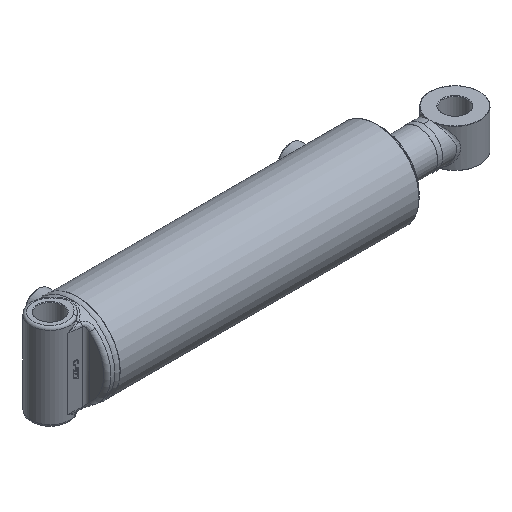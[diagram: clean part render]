
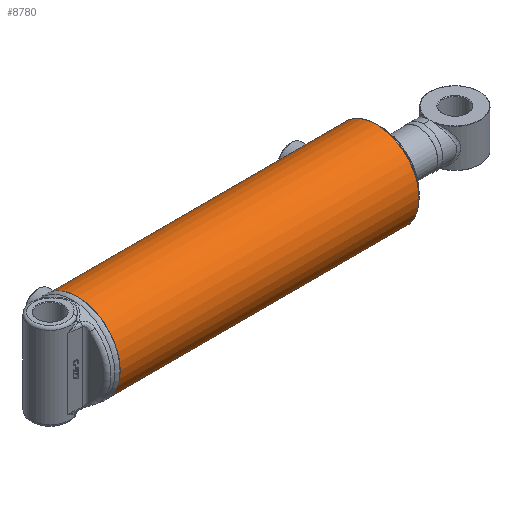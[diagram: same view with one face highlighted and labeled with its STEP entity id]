
A CAD part, isometric view. The second image highlights one B-rep face of the part: STEP entity #8780.
In plain terms, the highlighted cylindrical face has radius 56.356 mm (diameter 112.712 mm), a full revolution.
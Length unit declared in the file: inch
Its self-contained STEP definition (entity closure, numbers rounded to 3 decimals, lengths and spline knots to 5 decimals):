
#808=B_SPLINE_CURVE_WITH_KNOTS('',3,(#13133,#13134,#13135,#13136,#13137,
#13138,#13139,#13140,#13141,#13142),.UNSPECIFIED.,.F.,.F.,(4,2,2,2,4),(0.,
0.23942,0.47883,0.71824,0.95766),
 .UNSPECIFIED.);
#809=B_SPLINE_CURVE_WITH_KNOTS('',3,(#13143,#13144,#13145,#13146,#13147,
#13148,#13149,#13150,#13151,#13152,#13153,#13154,#13155,#13156,#13157,#13158,
#13159,#13160,#13161,#13162,#13163,#13164,#13165,#13166,#13167,#13168),
 .UNSPECIFIED.,.F.,.F.,(4,2,2,2,2,2,2,2,2,2,2,2,4),(0.95766,1.19707,
1.43649,1.6759,1.91532,2.15473,2.39415,
2.63356,2.87297,3.11239,3.3518,3.59122,
3.83063),.UNSPECIFIED.);
#810=B_SPLINE_CURVE_WITH_KNOTS('',3,(#13173,#13174,#13175,#13176,#13177,
#13178,#13179,#13180,#13181,#13182),.UNSPECIFIED.,.F.,.F.,(4,2,2,2,4),(0.,
0.23942,0.47883,0.71824,0.95766),
 .UNSPECIFIED.);
#811=B_SPLINE_CURVE_WITH_KNOTS('',3,(#13183,#13184,#13185,#13186,#13187,
#13188,#13189,#13190,#13191,#13192,#13193,#13194,#13195,#13196,#13197,#13198,
#13199,#13200,#13201,#13202,#13203,#13204,#13205,#13206,#13207,#13208),
 .UNSPECIFIED.,.F.,.F.,(4,2,2,2,2,2,2,2,2,2,2,2,4),(0.95766,1.19707,
1.43649,1.6759,1.91532,2.15473,2.39415,
2.63356,2.87297,3.11239,3.3518,3.59122,
3.83063),.UNSPECIFIED.);
#1096=FACE_BOUND('',#2595,.T.);
#1097=FACE_BOUND('',#2596,.T.);
#1352=LINE('',#13244,#1693);
#1693=VECTOR('',#10661,2.21875);
#2031=CYLINDRICAL_SURFACE('',#9525,2.21875);
#2119=FACE_OUTER_BOUND('',#2594,.T.);
#2594=EDGE_LOOP('',(#6139,#6140,#6141,#6142,#6143,#6144));
#2595=EDGE_LOOP('',(#6145,#6146));
#2596=EDGE_LOOP('',(#6147,#6148));
#3157=CIRCLE('',#9522,2.21875);
#3159=CIRCLE('',#9524,2.21875);
#3160=CIRCLE('',#9526,2.21875);
#3161=CIRCLE('',#9527,2.21875);
#3801=VERTEX_POINT('',#13130);
#3802=VERTEX_POINT('',#13132);
#3803=VERTEX_POINT('',#13170);
#3804=VERTEX_POINT('',#13172);
#3815=VERTEX_POINT('',#13237);
#3816=VERTEX_POINT('',#13238);
#3817=VERTEX_POINT('',#13243);
#3818=VERTEX_POINT('',#13245);
#4736=EDGE_CURVE('',#3802,#3801,#808,.T.);
#4737=EDGE_CURVE('',#3801,#3802,#809,.T.);
#4739=EDGE_CURVE('',#3804,#3803,#810,.T.);
#4740=EDGE_CURVE('',#3803,#3804,#811,.T.);
#4754=EDGE_CURVE('',#3815,#3816,#3157,.T.);
#4756=EDGE_CURVE('',#3816,#3815,#3159,.T.);
#4757=EDGE_CURVE('',#3815,#3817,#1352,.T.);
#4758=EDGE_CURVE('',#3818,#3817,#3160,.T.);
#4759=EDGE_CURVE('',#3817,#3818,#3161,.T.);
#6139=ORIENTED_EDGE('',*,*,#4754,.F.);
#6140=ORIENTED_EDGE('',*,*,#4757,.T.);
#6141=ORIENTED_EDGE('',*,*,#4758,.F.);
#6142=ORIENTED_EDGE('',*,*,#4759,.F.);
#6143=ORIENTED_EDGE('',*,*,#4757,.F.);
#6144=ORIENTED_EDGE('',*,*,#4756,.F.);
#6145=ORIENTED_EDGE('',*,*,#4736,.T.);
#6146=ORIENTED_EDGE('',*,*,#4737,.T.);
#6147=ORIENTED_EDGE('',*,*,#4739,.T.);
#6148=ORIENTED_EDGE('',*,*,#4740,.T.);
#8780=ADVANCED_FACE('',(#2119,#1096,#1097),#2031,.T.);
#9522=AXIS2_PLACEMENT_3D('',#13239,#10653,#10654);
#9524=AXIS2_PLACEMENT_3D('',#13241,#10657,#10658);
#9525=AXIS2_PLACEMENT_3D('',#13242,#10659,#10660);
#9526=AXIS2_PLACEMENT_3D('',#13246,#10662,#10663);
#9527=AXIS2_PLACEMENT_3D('',#13247,#10664,#10665);
#10653=DIRECTION('center_axis',(1.,0.,0.));
#10654=DIRECTION('ref_axis',(0.,-1.,0.));
#10657=DIRECTION('center_axis',(1.,0.,0.));
#10658=DIRECTION('ref_axis',(0.,-1.,0.));
#10659=DIRECTION('center_axis',(1.,0.,0.));
#10660=DIRECTION('ref_axis',(0.,-1.,0.));
#10661=DIRECTION('',(-1.,0.,0.));
#10662=DIRECTION('center_axis',(-1.,0.,0.));
#10663=DIRECTION('ref_axis',(0.,-1.,0.));
#10664=DIRECTION('center_axis',(-1.,0.,0.));
#10665=DIRECTION('ref_axis',(0.,-1.,0.));
#13130=CARTESIAN_POINT('',(0.75,0.,2.21875));
#13132=CARTESIAN_POINT('',(1.,-0.25,2.20462));
#13133=CARTESIAN_POINT('Ctrl Pts',(1.,-0.25,2.20462));
#13134=CARTESIAN_POINT('Ctrl Pts',(0.96858,-0.25,2.20462));
#13135=CARTESIAN_POINT('Ctrl Pts',(0.93509,-0.24372,
2.20536));
#13136=CARTESIAN_POINT('Ctrl Pts',(0.8735,-0.21819,
2.20803));
#13137=CARTESIAN_POINT('Ctrl Pts',(0.8454,-0.19896,
2.20992));
#13138=CARTESIAN_POINT('Ctrl Pts',(0.80104,-0.1546,
2.21347));
#13139=CARTESIAN_POINT('Ctrl Pts',(0.78181,-0.1265,
2.21536));
#13140=CARTESIAN_POINT('Ctrl Pts',(0.75628,-0.06491,
2.21801));
#13141=CARTESIAN_POINT('Ctrl Pts',(0.75,-0.03142,2.21875));
#13142=CARTESIAN_POINT('Ctrl Pts',(0.75,0.,2.21875));
#13143=CARTESIAN_POINT('Ctrl Pts',(0.75,0.,2.21875));
#13144=CARTESIAN_POINT('Ctrl Pts',(0.75,0.03142,2.21875));
#13145=CARTESIAN_POINT('Ctrl Pts',(0.75628,0.06491,
2.21801));
#13146=CARTESIAN_POINT('Ctrl Pts',(0.78181,0.1265,
2.21536));
#13147=CARTESIAN_POINT('Ctrl Pts',(0.80104,0.1546,
2.21347));
#13148=CARTESIAN_POINT('Ctrl Pts',(0.8454,0.19896,
2.20992));
#13149=CARTESIAN_POINT('Ctrl Pts',(0.8735,0.21819,2.20803));
#13150=CARTESIAN_POINT('Ctrl Pts',(0.93509,0.24372,
2.20536));
#13151=CARTESIAN_POINT('Ctrl Pts',(0.96858,0.25,2.20462));
#13152=CARTESIAN_POINT('Ctrl Pts',(1.03142,0.25,2.20462));
#13153=CARTESIAN_POINT('Ctrl Pts',(1.06491,0.24372,2.20536));
#13154=CARTESIAN_POINT('Ctrl Pts',(1.1265,0.21819,2.20803));
#13155=CARTESIAN_POINT('Ctrl Pts',(1.1546,0.19896,2.20992));
#13156=CARTESIAN_POINT('Ctrl Pts',(1.19896,0.1546,2.21347));
#13157=CARTESIAN_POINT('Ctrl Pts',(1.21819,0.1265,2.21536));
#13158=CARTESIAN_POINT('Ctrl Pts',(1.24372,0.06491,
2.21801));
#13159=CARTESIAN_POINT('Ctrl Pts',(1.25,0.03142,2.21875));
#13160=CARTESIAN_POINT('Ctrl Pts',(1.25,-0.03142,2.21875));
#13161=CARTESIAN_POINT('Ctrl Pts',(1.24372,-0.06491,
2.21801));
#13162=CARTESIAN_POINT('Ctrl Pts',(1.21819,-0.1265,
2.21536));
#13163=CARTESIAN_POINT('Ctrl Pts',(1.19896,-0.1546,
2.21347));
#13164=CARTESIAN_POINT('Ctrl Pts',(1.1546,-0.19896,
2.20992));
#13165=CARTESIAN_POINT('Ctrl Pts',(1.1265,-0.21819,2.20803));
#13166=CARTESIAN_POINT('Ctrl Pts',(1.06491,-0.24372,2.20536));
#13167=CARTESIAN_POINT('Ctrl Pts',(1.03142,-0.25,2.20462));
#13168=CARTESIAN_POINT('Ctrl Pts',(1.,-0.25,2.20462));
#13170=CARTESIAN_POINT('',(13.87,0.,2.21875));
#13172=CARTESIAN_POINT('',(14.12,-0.25,2.20462));
#13173=CARTESIAN_POINT('Ctrl Pts',(14.12,-0.25,2.20462));
#13174=CARTESIAN_POINT('Ctrl Pts',(14.08858,-0.25,
2.20462));
#13175=CARTESIAN_POINT('Ctrl Pts',(14.05509,-0.24372,2.20536));
#13176=CARTESIAN_POINT('Ctrl Pts',(13.9935,-0.21819,
2.20803));
#13177=CARTESIAN_POINT('Ctrl Pts',(13.9654,-0.19896,2.20992));
#13178=CARTESIAN_POINT('Ctrl Pts',(13.92104,-0.1546,
2.21347));
#13179=CARTESIAN_POINT('Ctrl Pts',(13.90181,-0.1265,
2.21536));
#13180=CARTESIAN_POINT('Ctrl Pts',(13.87628,-0.06491,
2.21801));
#13181=CARTESIAN_POINT('Ctrl Pts',(13.87,-0.03142,2.21875));
#13182=CARTESIAN_POINT('Ctrl Pts',(13.87,0.,2.21875));
#13183=CARTESIAN_POINT('Ctrl Pts',(13.87,0.,2.21875));
#13184=CARTESIAN_POINT('Ctrl Pts',(13.87,0.03142,2.21875));
#13185=CARTESIAN_POINT('Ctrl Pts',(13.87628,0.06491,
2.21801));
#13186=CARTESIAN_POINT('Ctrl Pts',(13.90181,0.1265,2.21536));
#13187=CARTESIAN_POINT('Ctrl Pts',(13.92104,0.1546,2.21347));
#13188=CARTESIAN_POINT('Ctrl Pts',(13.9654,0.19896,2.20992));
#13189=CARTESIAN_POINT('Ctrl Pts',(13.9935,0.21819,2.20803));
#13190=CARTESIAN_POINT('Ctrl Pts',(14.05509,0.24372,2.20536));
#13191=CARTESIAN_POINT('Ctrl Pts',(14.08858,0.25,2.20462));
#13192=CARTESIAN_POINT('Ctrl Pts',(14.15142,0.25,2.20462));
#13193=CARTESIAN_POINT('Ctrl Pts',(14.18491,0.24372,2.20536));
#13194=CARTESIAN_POINT('Ctrl Pts',(14.2465,0.21819,2.20803));
#13195=CARTESIAN_POINT('Ctrl Pts',(14.2746,0.19896,2.20992));
#13196=CARTESIAN_POINT('Ctrl Pts',(14.31896,0.1546,2.21347));
#13197=CARTESIAN_POINT('Ctrl Pts',(14.33819,0.1265,2.21536));
#13198=CARTESIAN_POINT('Ctrl Pts',(14.36372,0.06491,
2.21801));
#13199=CARTESIAN_POINT('Ctrl Pts',(14.37,0.03142,2.21875));
#13200=CARTESIAN_POINT('Ctrl Pts',(14.37,-0.03142,2.21875));
#13201=CARTESIAN_POINT('Ctrl Pts',(14.36372,-0.06491,
2.21801));
#13202=CARTESIAN_POINT('Ctrl Pts',(14.33819,-0.1265,
2.21536));
#13203=CARTESIAN_POINT('Ctrl Pts',(14.31896,-0.1546,
2.21347));
#13204=CARTESIAN_POINT('Ctrl Pts',(14.2746,-0.19896,2.20992));
#13205=CARTESIAN_POINT('Ctrl Pts',(14.2465,-0.21819,
2.20803));
#13206=CARTESIAN_POINT('Ctrl Pts',(14.18491,-0.24372,2.20536));
#13207=CARTESIAN_POINT('Ctrl Pts',(14.15142,-0.25,
2.20462));
#13208=CARTESIAN_POINT('Ctrl Pts',(14.12,-0.25,2.20462));
#13237=CARTESIAN_POINT('',(15.61,2.21875,0.));
#13238=CARTESIAN_POINT('',(15.61,0.,-2.21875));
#13239=CARTESIAN_POINT('Origin',(15.61,0.,0.));
#13241=CARTESIAN_POINT('Origin',(15.61,0.,0.));
#13242=CARTESIAN_POINT('Origin',(0.,0.,0.));
#13243=CARTESIAN_POINT('',(0.11186,2.21875,0.));
#13244=CARTESIAN_POINT('',(0.,2.21875,0.));
#13245=CARTESIAN_POINT('',(0.11186,0.,2.21875));
#13246=CARTESIAN_POINT('Origin',(0.11186,0.,0.));
#13247=CARTESIAN_POINT('Origin',(0.11186,0.,0.));
